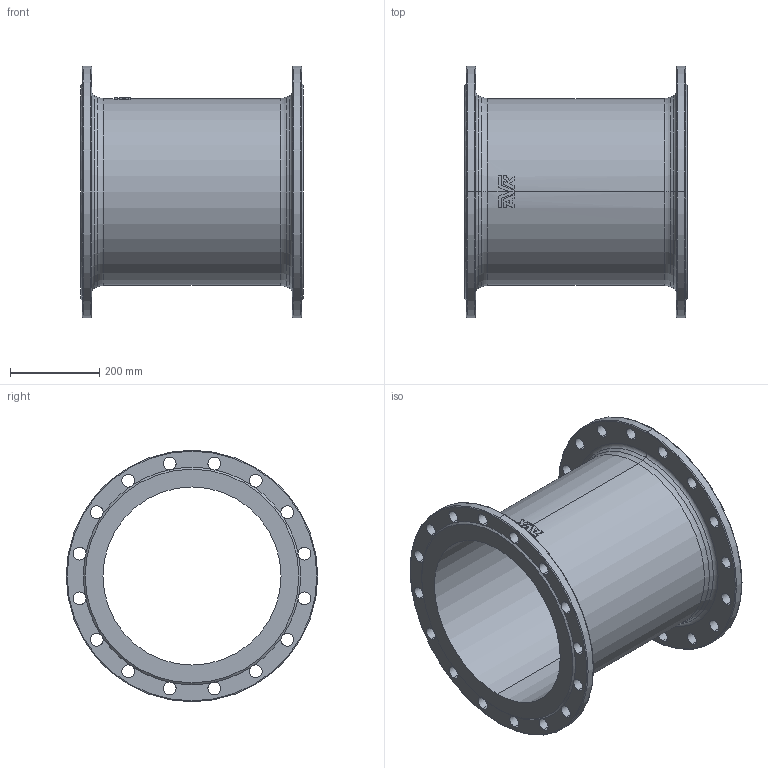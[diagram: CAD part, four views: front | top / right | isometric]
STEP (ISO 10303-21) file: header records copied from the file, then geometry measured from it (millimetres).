
FILE_DESCRIPTION (( 'STEP AP203' ), '1' );
FILE_NAME ('O_712_4810_DN400_0X_REV01.step', '2021-12-01T11:00:46', ( '' ), ( '' ), 'SwSTEP 2.0', 'SolidWorks 2019', '' );
FILE_SCHEMA (( 'CONFIG_CONTROL_DESIGN' ));
Length unit declared in the file: millimetre
Products named in the file (1): O_712_4810_DN400_0X_REV01
Bounding box: 500 x 565 x 565 mm (x, y, z)
Volume: 11252927.7 mm3; surface area: 1764884.2 mm2
Topology: 1 solids, 1 shells, 144 faces, 479 edges, 312 vertices
Faces by surface type: cylinder 77, plane 26, bspline 17, torus 16, cone 8
Entity records: 6686 total; most frequent: CARTESIAN_POINT 2247, ORIENTED_EDGE 958, DIRECTION 939, EDGE_CURVE 479, AXIS2_PLACEMENT_3D 406, VERTEX_POINT 312, CIRCLE 278, EDGE_LOOP 185
